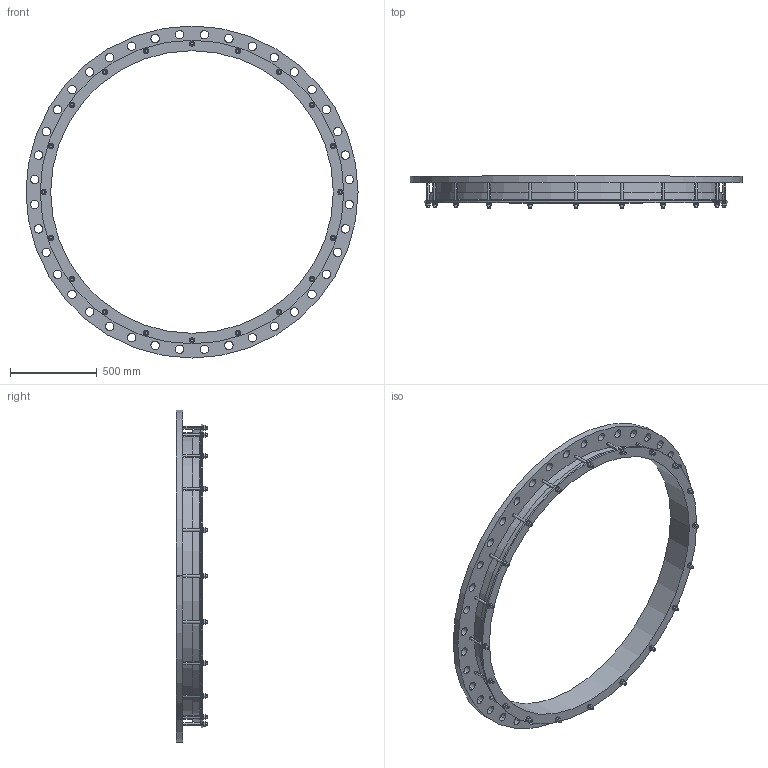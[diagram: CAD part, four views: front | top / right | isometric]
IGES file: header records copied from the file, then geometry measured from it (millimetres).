
Start section:  PTC IGES file: 1626x1600pn10.igs
Global section: file name: 1626x1600pn10.igs; native system: Creo Parametric by PTC Inc.; preprocessor: 2016130; author: mfairey; organization: Unknown; date: 20190117.144116; units: millimetre
Bounding box: 1915 x 182 x 1915 mm (x, y, z)
Surface area: 3905176.8 mm2 (no closed solid volume)
Topology: 0 solids, 0 shells, 398 faces, 2116 edges, 2116 vertices
Faces by surface type: revolution 214, bspline 184
